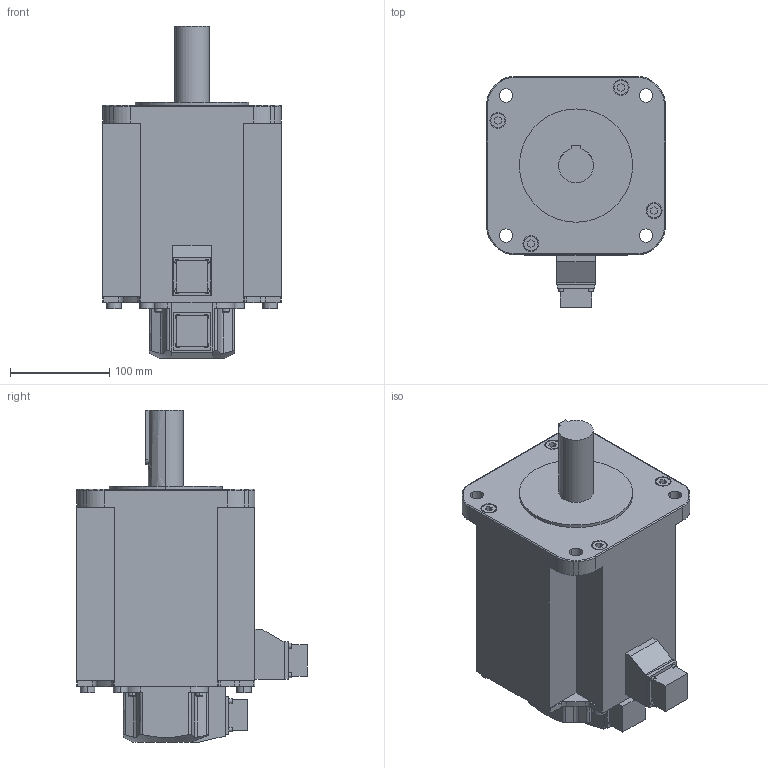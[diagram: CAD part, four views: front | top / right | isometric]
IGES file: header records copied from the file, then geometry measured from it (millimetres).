
Start section:  PTC IGES file: rsmh_40atk3.igs
Global section: file name: rsmh_40atk3.igs; native system: Pro/ENGINEER by Parametric Technology Corporation; preprocessor: 2004440; author: Administrator; organization: Unknown; date: 070829.192459; units: millimetre
Bounding box: 180 x 233 x 335 mm (x, y, z)
Volume: 5979077.9 mm3; surface area: 252756.5 mm2
Topology: 1 solids, 1 shells, 290 faces, 744 edges, 488 vertices
Faces by surface type: bspline 164, revolution 126
